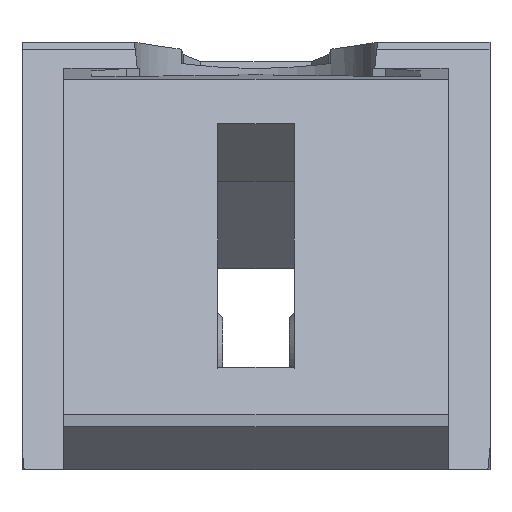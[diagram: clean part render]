
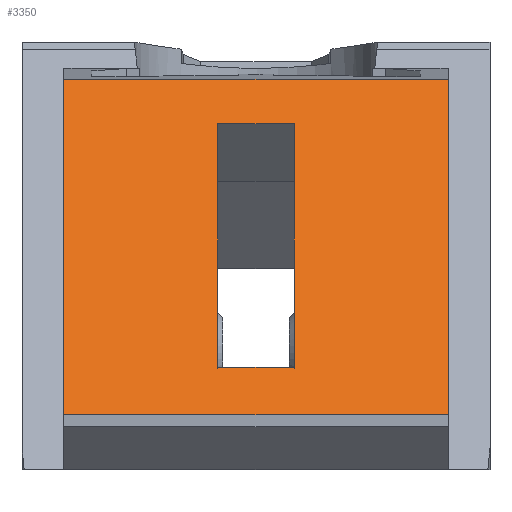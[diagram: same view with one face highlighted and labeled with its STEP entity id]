
A CAD part, front view. The second image highlights one B-rep face of the part: STEP entity #3350.
In plain terms, the highlighted planar face has unit normal (0, -0.872, 0.49).
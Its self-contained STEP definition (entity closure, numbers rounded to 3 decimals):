
#58 = VECTOR ( 'NONE', #2051, 1000. ) ;
#120 = CARTESIAN_POINT ( 'NONE',  ( -2.2, -71.926, 8.743 ) ) ;
#210 = AXIS2_PLACEMENT_3D ( 'NONE', #999, #3798, #684 ) ;
#252 = ORIENTED_EDGE ( 'NONE', *, *, #3510, .T. ) ;
#286 = ORIENTED_EDGE ( 'NONE', *, *, #1309, .F. ) ;
#331 = CARTESIAN_POINT ( 'NONE',  ( 11., -62.636, 25.253 ) ) ;
#355 = VECTOR ( 'NONE', #3088, 1000. ) ;
#427 = VECTOR ( 'NONE', #3501, 1000. ) ;
#612 = EDGE_CURVE ( 'NONE', #1668, #2822, #2397, .T. ) ;
#665 = CARTESIAN_POINT ( 'NONE',  ( 15., -73.453, 6.03 ) ) ;
#684 = DIRECTION ( 'NONE',  ( 0., 0.49, 0.872 ) ) ;
#900 = CARTESIAN_POINT ( 'NONE',  ( 2.2, -64.066, 22.711 ) ) ;
#957 = VERTEX_POINT ( 'NONE', #1704 ) ;
#999 = CARTESIAN_POINT ( 'NONE',  ( 15., -73.453, 6.03 ) ) ;
#1010 = CARTESIAN_POINT ( 'NONE',  ( -2.2, -64.066, 22.711 ) ) ;
#1064 = DIRECTION ( 'NONE',  ( -1., 0., 0. ) ) ;
#1084 = VERTEX_POINT ( 'NONE', #3213 ) ;
#1134 = VECTOR ( 'NONE', #3743, 1000. ) ;
#1199 = EDGE_CURVE ( 'NONE', #4142, #1084, #2745, .T. ) ;
#1252 = ORIENTED_EDGE ( 'NONE', *, *, #4327, .F. ) ;
#1309 = EDGE_CURVE ( 'NONE', #2309, #3352, #2449, .T. ) ;
#1567 = EDGE_LOOP ( 'NONE', ( #1905, #3861, #3385, #252 ) ) ;
#1668 = VERTEX_POINT ( 'NONE', #2738 ) ;
#1704 = CARTESIAN_POINT ( 'NONE',  ( -11., -62.636, 25.253 ) ) ;
#1717 = LINE ( 'NONE', #4150, #2184 ) ;
#1813 = DIRECTION ( 'NONE',  ( 1., 0., 0. ) ) ;
#1905 = ORIENTED_EDGE ( 'NONE', *, *, #3785, .T. ) ;
#2051 = DIRECTION ( 'NONE',  ( -1., 0., 0. ) ) ;
#2071 = CARTESIAN_POINT ( 'NONE',  ( -2.2, -71.926, 8.743 ) ) ;
#2184 = VECTOR ( 'NONE', #1813, 1000. ) ;
#2309 = VERTEX_POINT ( 'NONE', #3593 ) ;
#2366 = LINE ( 'NONE', #3706, #1134 ) ;
#2397 = LINE ( 'NONE', #665, #58 ) ;
#2416 = PLANE ( 'NONE',  #210 ) ;
#2449 = LINE ( 'NONE', #1010, #355 ) ;
#2615 = VERTEX_POINT ( 'NONE', #331 ) ;
#2616 = CARTESIAN_POINT ( 'NONE',  ( -11., -73.453, 6.03 ) ) ;
#2620 = EDGE_CURVE ( 'NONE', #2309, #4142, #1717, .T. ) ;
#2738 = CARTESIAN_POINT ( 'NONE',  ( 11., -73.453, 6.03 ) ) ;
#2745 = LINE ( 'NONE', #900, #427 ) ;
#2762 = FACE_OUTER_BOUND ( 'NONE', #1567, .T. ) ;
#2822 = VERTEX_POINT ( 'NONE', #2616 ) ;
#3088 = DIRECTION ( 'NONE',  ( 0., -0.49, -0.872 ) ) ;
#3213 = CARTESIAN_POINT ( 'NONE',  ( 2.2, -71.926, 8.743 ) ) ;
#3250 = CARTESIAN_POINT ( 'NONE',  ( 11., -84.335, -13.309 ) ) ;
#3350 = ADVANCED_FACE ( 'NONE', ( #4471, #2762 ), #2416, .F. ) ;
#3352 = VERTEX_POINT ( 'NONE', #2071 ) ;
#3385 = ORIENTED_EDGE ( 'NONE', *, *, #3837, .T. ) ;
#3458 = DIRECTION ( 'NONE',  ( 0., 0.49, 0.872 ) ) ;
#3468 = VECTOR ( 'NONE', #3458, 1000. ) ;
#3473 = CARTESIAN_POINT ( 'NONE',  ( 2.2, -64.066, 22.711 ) ) ;
#3501 = DIRECTION ( 'NONE',  ( 0., -0.49, -0.872 ) ) ;
#3510 = EDGE_CURVE ( 'NONE', #2615, #957, #3848, .T. ) ;
#3545 = VECTOR ( 'NONE', #1064, 1000. ) ;
#3593 = CARTESIAN_POINT ( 'NONE',  ( -2.2, -64.066, 22.711 ) ) ;
#3605 = LINE ( 'NONE', #120, #3899 ) ;
#3610 = LINE ( 'NONE', #3250, #3468 ) ;
#3706 = CARTESIAN_POINT ( 'NONE',  ( -11., -84.335, -13.309 ) ) ;
#3743 = DIRECTION ( 'NONE',  ( 0., -0.49, -0.872 ) ) ;
#3785 = EDGE_CURVE ( 'NONE', #957, #2822, #2366, .T. ) ;
#3798 = DIRECTION ( 'NONE',  ( 0., 0.872, -0.49 ) ) ;
#3837 = EDGE_CURVE ( 'NONE', #1668, #2615, #3610, .T. ) ;
#3848 = LINE ( 'NONE', #3884, #3545 ) ;
#3861 = ORIENTED_EDGE ( 'NONE', *, *, #612, .F. ) ;
#3884 = CARTESIAN_POINT ( 'NONE',  ( 15., -62.636, 25.253 ) ) ;
#3899 = VECTOR ( 'NONE', #3939, 1000. ) ;
#3939 = DIRECTION ( 'NONE',  ( 1., 0., 0. ) ) ;
#3961 = ORIENTED_EDGE ( 'NONE', *, *, #2620, .T. ) ;
#4142 = VERTEX_POINT ( 'NONE', #3473 ) ;
#4150 = CARTESIAN_POINT ( 'NONE',  ( -2.2, -64.066, 22.711 ) ) ;
#4327 = EDGE_CURVE ( 'NONE', #3352, #1084, #3605, .T. ) ;
#4328 = ORIENTED_EDGE ( 'NONE', *, *, #1199, .T. ) ;
#4341 = EDGE_LOOP ( 'NONE', ( #1252, #286, #3961, #4328 ) ) ;
#4471 = FACE_BOUND ( 'NONE', #4341, .T. ) ;
